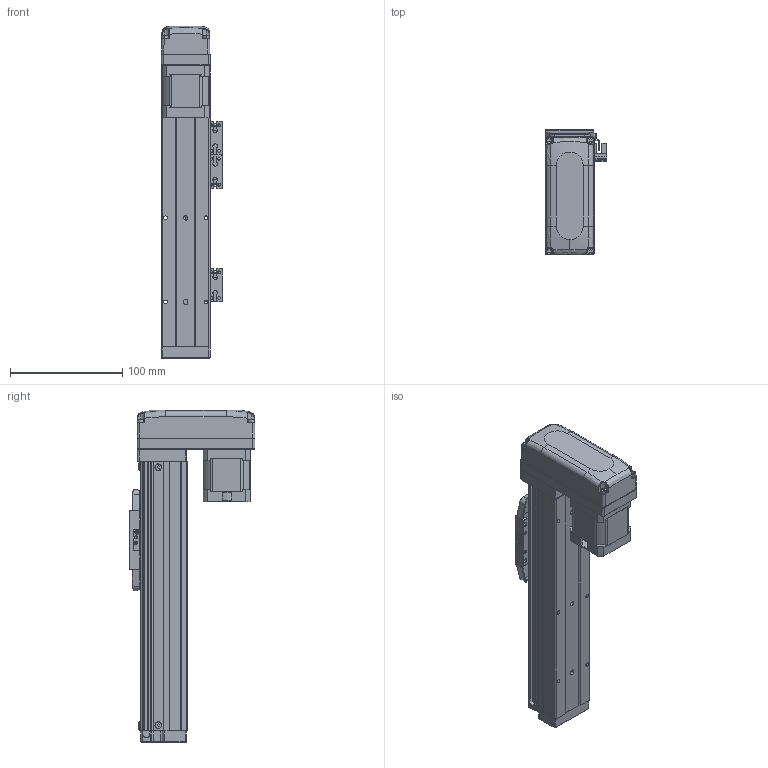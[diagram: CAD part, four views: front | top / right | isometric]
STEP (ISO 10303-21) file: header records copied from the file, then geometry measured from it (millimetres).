
FILE_DESCRIPTION (( 'STEP AP203' ), '1' );
FILE_NAME ('GTH4-100-BM-B42-C4.step', '2023-02-14T00:20:14', ( '微软用户' ), ( '微软中国' ), 'SwSTEP 2.0', 'SolidWorks 2020', '' );
FILE_SCHEMA (( 'CONFIG_CONTROL_DESIGN' ));
Length unit declared in the file: millimetre
Products named in the file (19): BTH50-023; BTH40-013; BTH40-001-50_BTH40-001-100; BTH50-024; GBT 70.3-M3℅6; BTH40-003; GBT 70.1-M3℅6; BTH40-027-1; BTH40-006; GBT96.1-2002 3×0.8; BTH50-026; BTH-M3X5X6; BTH40-022; 42CM06; GBT70.1-2000 M3×16; GBT 70.1-M2.5×6; GTH4-100-BM-B42-C4; BTH50-028; BTH40-004
Assembly tree (47 placements, depth 2):
  GTH4-100-BM-B42-C4
    BTH40-001-50_BTH40-001-100
    BTH40-003
    BTH40-006
    BTH-M3X5X6  x8
    GBT70.1-2000 M3×16  x4
    BTH50-028  x2
    BTH50-023  x3
    BTH50-024  x3
    GBT 70.1-M3℅6  x6
    GBT96.1-2002 3×0.8  x6
    BTH40-022
    GBT 70.1-M2.5×6  x2
    BTH40-004
    BTH40-013
    GBT 70.3-M3℅6  x4
    BTH40-027-1
    BTH50-026
    42CM06
Bounding box: 55.2 x 112 x 296 mm (x, y, z)
Volume: 635265.5 mm3; surface area: 158264.4 mm2
Topology: 56 solids, 56 shells, 3323 faces, 7736 edges, 4622 vertices
Faces by surface type: cone 1508, plane 1076, cylinder 561, torus 124, bspline 42, sphere 12
Entity records: 77446 total; most frequent: CARTESIAN_POINT 13969, DIRECTION 13761, ORIENTED_EDGE 12118, EDGE_CURVE 6059, AXIS2_PLACEMENT_3D 5277, VERTEX_POINT 3609, VECTOR 3207, LINE 3207
